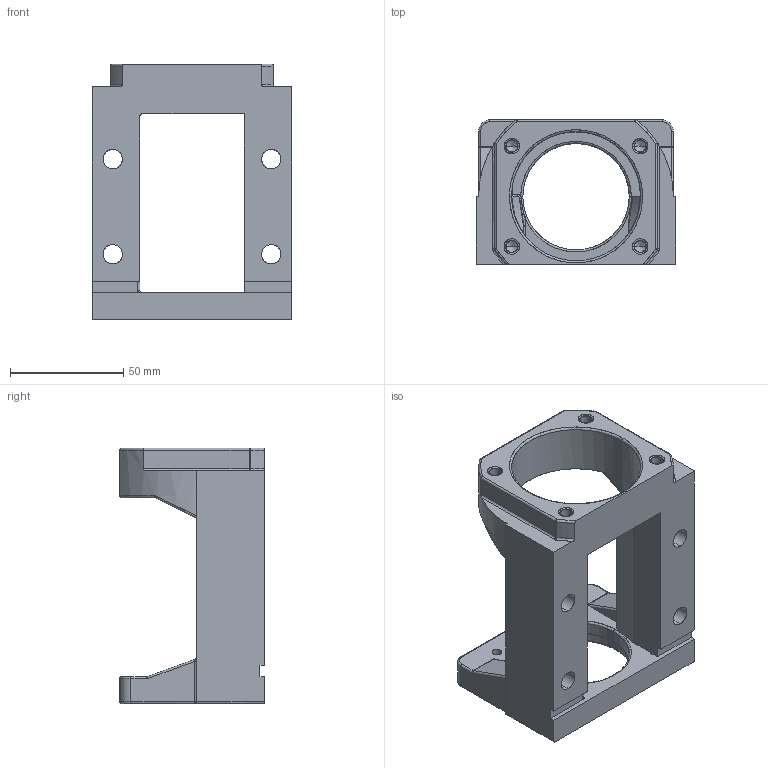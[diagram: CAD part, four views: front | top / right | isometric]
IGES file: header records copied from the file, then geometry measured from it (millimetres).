
Start section: SolidWorks IGES file using analytic representation for surfaces
Bounding box: 88 x 64 x 113 mm (x, y, z)
Surface area: 45886.3 mm2 (no closed solid volume)
Topology: 0 solids, 0 shells, 248 faces, 2824 edges, 2802 vertices
Faces by surface type: revolution 131, bspline 117
